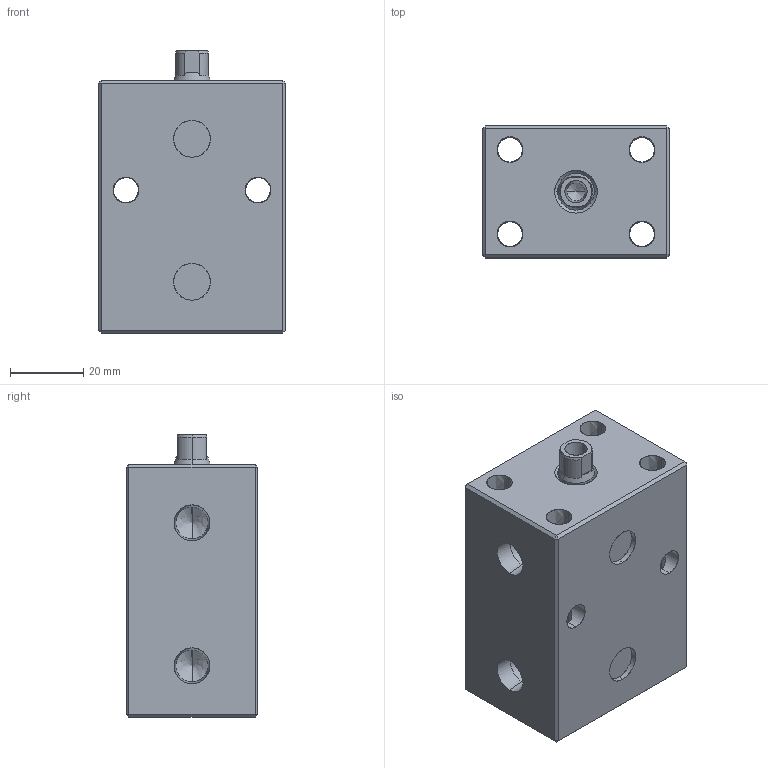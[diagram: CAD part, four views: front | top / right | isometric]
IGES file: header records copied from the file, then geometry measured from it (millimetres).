
Start section: SolidWorks IGES file using analytic representation for surfaces
Global section: file name: E:\ALL-SSVT-BLOCK\IGS-MODEL\BC04-16-25.IGS; native system: SolidWorks 2019; preprocessor: SolidWorks 2019; author: SSVT; date: 210823.152902; units: millimetre
Bounding box: 51 x 36 x 77 mm (x, y, z)
Surface area: 26218.8 mm2 (no closed solid volume)
Topology: 0 solids, 0 shells, 97 faces, 1637 edges, 1631 vertices
Faces by surface type: revolution 64, bspline 33
